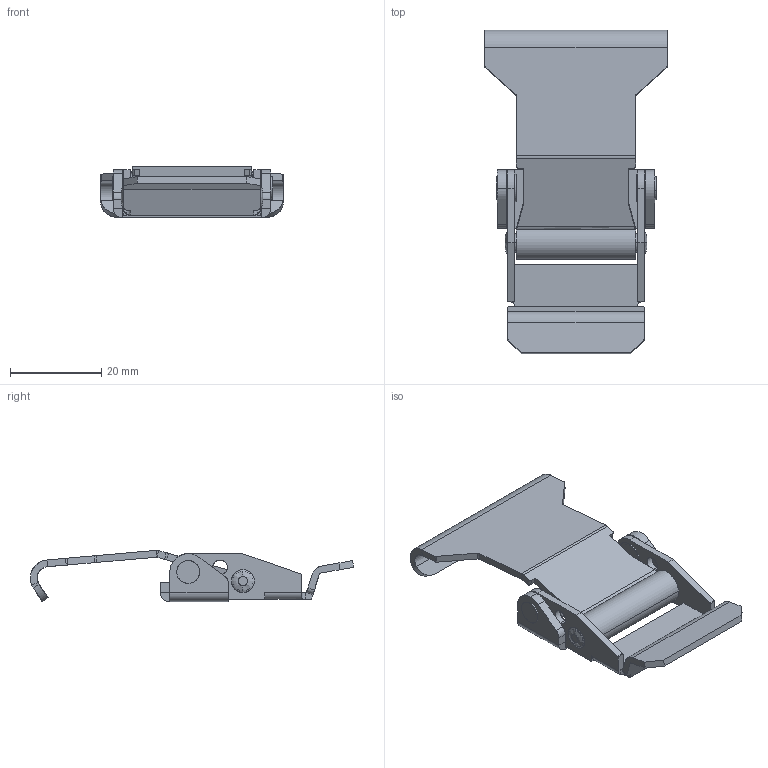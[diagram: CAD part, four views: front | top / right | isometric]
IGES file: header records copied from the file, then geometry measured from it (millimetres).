
Start section: SolidWorks IGES FILE using analytic representation for surfaces
Global section: file name: C:\WINNT\Profiles\cbrechard\Bureau\GE 2085\GE 2085.IGS; native system: SolidWorks 2001Plus by SolidWorks Corporation; preprocessor: Version 5.3; author: CBRECHARD; date: 050124.093747; units: millimetre
Bounding box: 40 x 70.83 x 11.23 mm (x, y, z)
Surface area: 9135.6 mm2 (no closed solid volume)
Topology: 0 solids, 0 shells, 189 faces, 2532 edges, 2532 vertices
Faces by surface type: bspline 114, revolution 75
